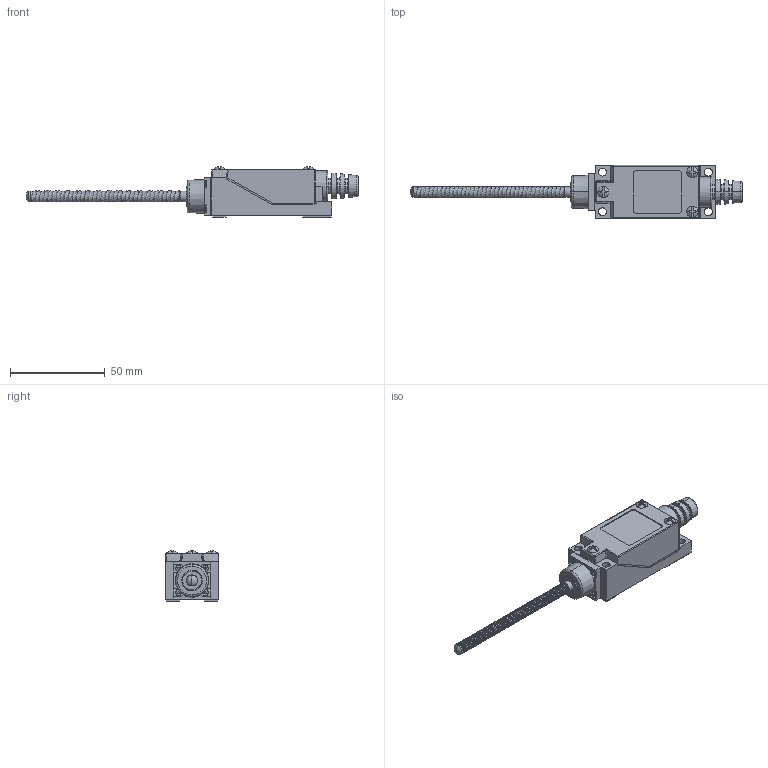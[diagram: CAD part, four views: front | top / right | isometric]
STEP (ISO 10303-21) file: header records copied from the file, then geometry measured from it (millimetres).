
FILE_DESCRIPTION(('STEP AP203'), '1');
FILE_NAME('Korpus-1.stp', '2014-07-04T09:47:34', ('UNSPECIFIED'), ('UNSPECIFIED'), 'ASCON STEP Converter 1.0', 'Kompas 3D', '');
FILE_SCHEMA(('CONFIG_CONTROL_DESIGN'));
Length unit declared in the file: millimetre
Bounding box: 175.46 x 28 x 26.71 mm (x, y, z)
Surface area: 15700.2 mm2 (no closed solid volume)
Topology: 0 solids, 1 shells, 342 faces, 887 edges, 559 vertices
Faces by surface type: plane 228, cylinder 55, torus 22, cone 20, sphere 13, bspline 4
Full cylindrical faces by diameter (mm): 5.5 x1, 16 x1
Entity records: 110090 total; most frequent: CARTESIAN_POINT 101985, ORIENTED_EDGE 1743, DIRECTION 1581, EDGE_CURVE 875, LINE 581, VECTOR 581, VERTEX_POINT 558, AXIS2_PLACEMENT_3D 500
